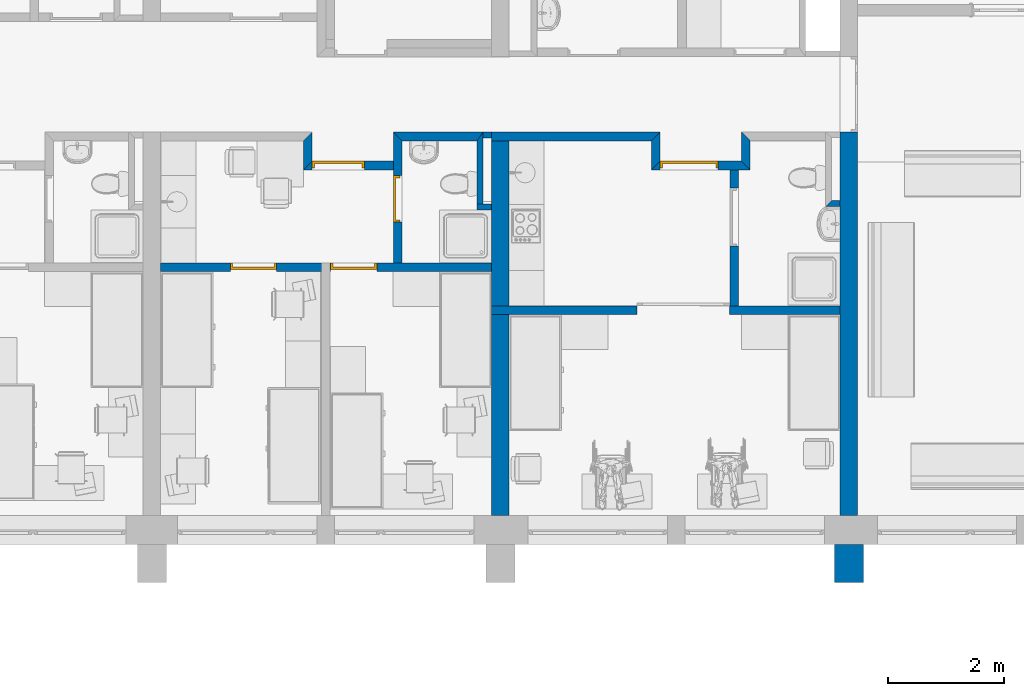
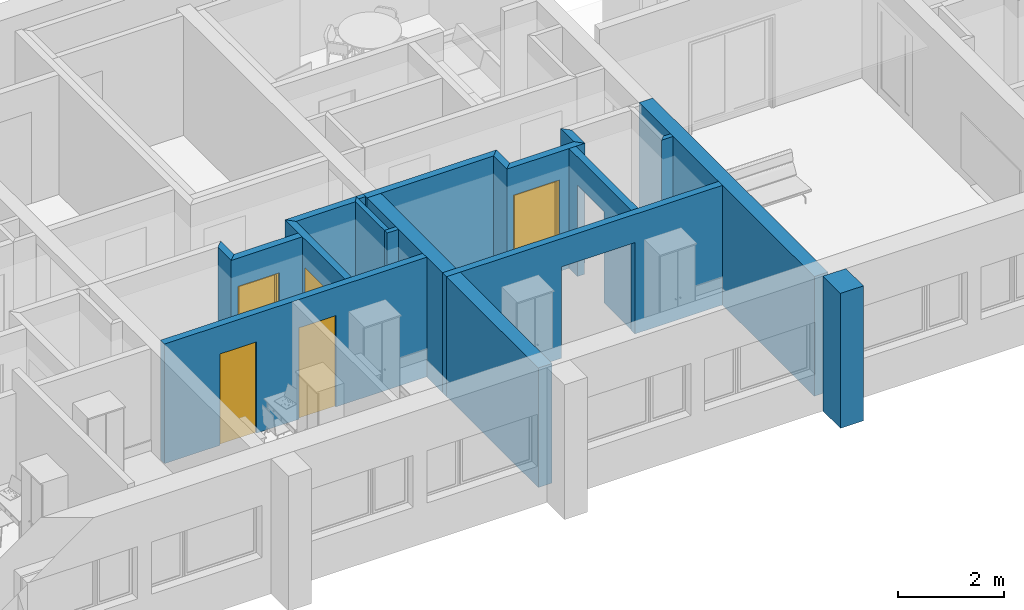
# One storey, part 11 of 172: 18 walls, 5 doors, 7 openings.
"""IFC2X3 building model written with IfcOpenShell, lengths in millimetres."""

from ifc_helpers import new_model, entity, si_unit, converted_unit, money_unit, direction, frame, origin_with_axes, place, context, subcontext, project, spatial, polyline, outline, extrude, faceted_brep, source, transform, mapped, material, material_list, layer, layer_set, layer_usage, type_object, element, fill, save


model = new_model("IFC2X3")

# Units and contexts
model_context = context("Model", 3, precision=1e-05, world=origin_with_axes(), true_north=direction((0.0, 1.0)))
body_context = subcontext(model_context, "Body", "Model", "MODEL_VIEW")
ifc_project = project(units=[si_unit("LENGTHUNIT", "METRE", prefix="MILLI"), si_unit("AREAUNIT", "SQUARE_METRE"), si_unit("VOLUMEUNIT", "CUBIC_METRE"), converted_unit("PLANEANGLEUNIT", "DEGREE", entity("IfcPlaneAngleMeasure", 0.0174532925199), si_unit("PLANEANGLEUNIT", "RADIAN"), dimensions=[0, 0, 0, 0, 0, 0, 0]), si_unit("SOLIDANGLEUNIT", "STERADIAN"), money_unit("USD"), converted_unit("TIMEUNIT", "Year", entity("IfcTimeMeasure", 31556926.0), si_unit("TIMEUNIT", "SECOND"), dimensions=[0, 0, 0, 0, 0, 0, 0]), si_unit("MASSUNIT", "GRAM"), si_unit("THERMODYNAMICTEMPERATUREUNIT", "DEGREE_CELSIUS"), si_unit("LUMINOUSINTENSITYUNIT", "LUMEN")], contexts=[model_context])

# Site, building, storey
site_placement = place(None, origin_with_axes())
site = spatial("IfcSite", under=ifc_project, at=site_placement, Name="Site", CompositionType="ELEMENT")
building_placement = place(site_placement, origin_with_axes())
building = spatial("IfcBuilding", under=site, at=building_placement, Name="Building", CompositionType="ELEMENT")
storey_placement = place(building_placement, frame((0.0, 0.0, 3200.0), z_axis=(0.0, 0.0, 1.0), x_axis=(1.0, 0.0, 0.0)))
storey = spatial("IfcBuildingStorey", under=building, at=storey_placement, Name="3KORRUS", CompositionType="ELEMENT", Elevation=3200.0)

# Walls
ifc_material_1 = material(Name="Olemasolevad seinad tellis, uus viimistlus")
ifc_layer_1 = layer(ifc_material_1, 500.0, ventilated="UNKNOWN")
ifc_layer_set_1 = layer_set([ifc_layer_1], Name="Olemasolevad seinad tellis, uus viimistlus 500")
ifc_layer_usage_1 = layer_usage(ifc_layer_set_1, "AXIS2", "POSITIVE", -100.0)
wall_type_1 = type_object("IfcWallType", Name="Olemasolevad seinad tellis, uus viimistlus 500", PredefinedType="NOTDEFINED")
wall_1_placement = place(storey_placement, frame((-11990.2967033, -20796.6419407, 0.0), z_axis=(0.0, 0.0, 1.0), x_axis=(0.0, 1.0, 0.0)))
element("IfcWallStandardCase", 1, at=wall_1_placement, inside=storey, type_object=wall_type_1, material=ifc_layer_usage_1, Name="VS1", ObjectType="VS1", context=body_context, shape_type="SweptSolid", body=[
    extrude(outline(polyline([(0.0, -100.0), (657.402041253, -100.0), (657.402041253, 400.0), (0.0, 400.0), (0.0, -100.0)])), origin_with_axes(), (0.0, 0.0, 1.0), 3100.0),
])
ifc_material_2 = material(Name="UmbKipsplaat")
ifc_layer_2 = layer(ifc_material_2, 13.0, ventilated="UNKNOWN")
ifc_layer_3 = layer(ifc_material_2, 13.0, ventilated="UNKNOWN")
ifc_material_3 = material(Name="SOOJUSTUS MINERAALVILL")
ifc_layer_4 = layer(ifc_material_3, 98.0, ventilated="UNKNOWN")
ifc_layer_5 = layer(ifc_material_2, 13.0, ventilated="UNKNOWN")
ifc_layer_6 = layer(ifc_material_2, 13.0, ventilated="UNKNOWN")
ifc_layer_set_2 = layer_set([ifc_layer_2, ifc_layer_3, ifc_layer_4, ifc_layer_5, ifc_layer_6], Name="kipssein150")
ifc_layer_usage_2 = layer_usage(ifc_layer_set_2, "AXIS2", "POSITIVE", 0.0)
wall_type_2 = type_object("IfcWallType", Name="kipssein150 150", PredefinedType="NOTDEFINED")
wall_2_placement = place(storey_placement, frame((-21533.8623684, -13039.2398994, 0.0), z_axis=(0.0, 0.0, 1.0), x_axis=(0.0, -1.0, 0.0)))
element("IfcWallStandardCase", 2, at=wall_2_placement, inside=storey, type_object=wall_type_2, material=ifc_layer_usage_2, Name="SS1", ObjectType="SS1", context=body_context, shape_type="SweptSolid", body=[
    extrude(outline(polyline([(150.0, 0.0), (650.2125089, 0.0), (500.2125089, 150.0), (0.0, 150.0), (150.0, 0.0)])), origin_with_axes(), (0.0, 0.0, 1.0), 2750.0),
])

# Wall, opening, door
ifc_layer_usage_3 = layer_usage(ifc_layer_set_2, "AXIS2", "POSITIVE", 0.0)
wall_3_placement = place(storey_placement, frame((-19984.201689, -13539.4524083, 0.0), z_axis=(0.0, 0.0, 1.0), x_axis=(-1.0, 0.0, 0.0)))
wall_3 = element("IfcWallStandardCase", 3, at=wall_3_placement, inside=storey, type_object=wall_type_2, material=ifc_layer_usage_3, Name="SS1", ObjectType="SS1", context=body_context, shape_type="SweptSolid", body=[
    extrude(outline(polyline([(0.0, 0.0), (1399.6606794, 0.0), (1549.6606794, 150.0), (0.0, 150.0), (0.0, 0.0)])), origin_with_axes(), (0.0, 0.0, 1.0), 2750.0),
])
opening_1_placement = place(wall_3_placement, frame((949.660679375, 0.0, 0.0), z_axis=(0.0, 0.0, 1.0), x_axis=(1.0, 0.0, 0.0)))
opening_1 = element("IfcOpeningElement", 4, at=opening_1_placement, cuts=wall_3, Name="SU2-6", context=body_context, shape_type="SweptSolid", body=[
    extrude(outline(polyline([(-450.0, -2100.0), (450.0, -2100.0), (450.0, 0.0), (-450.0, 0.0), (-450.0, -2100.0)])), frame((0.0, 150.0, 0.0), z_axis=(0.0, 1.0, 0.0), x_axis=(1.0, 0.0, 0.0)), (0.0, 0.0, -1.0), 450.0),
])
ifc_material_4 = material(Name="Background")
ifc_material_list = material_list([ifc_material_4])
door_style_1 = type_object("IfcDoorStyle", Name="Door 19", ConstructionType="NOTDEFINED", OperationType="SINGLE_SWING_LEFT", ParameterTakesPrecedence=False, Sizeable=False)
shared_shape_1 = source(origin_with_axes(), body_context, "Body", "Brep", [
    faceted_brep([(410.0, -40.0, 0.0), (410.0, -115.0, 0.0), (410.0, -115.0, 2060.0), (410.0, -40.0, 2060.0), (422.0, -40.0, 0.0), (422.0, 0.0, 0.0), (450.0, 0.0, 0.0), (450.0, -115.0, 0.0), (450.0, -115.0, 2060.0), (422.0, -40.0, 2060.0), (450.0, 0.0, 2060.0), (422.0, 0.0, 2060.0)], [[[0, 1, 2, 3]], [[4, 5, 6, 7, 1, 0]], [[2, 1, 7, 8]], [[9, 3, 2, 8, 10, 11]], [[9, 4, 0, 3]], [[11, 5, 4, 9]], [[11, 10, 6, 5]], [[7, 6, 10, 8]]]),
    faceted_brep([(-422.0, -40.0, 2060.0), (-422.0, 0.0, 2060.0), (-450.0, 0.0, 2060.0), (-450.0, -115.0, 2060.0), (-410.0, -115.0, 2060.0), (-410.0, -40.0, 2060.0), (-422.0, -40.0, 0.0), (-422.0, 0.0, 0.0), (-450.0, 0.0, 0.0), (-450.0, -115.0, 0.0), (-410.0, -115.0, 0.0), (-410.0, -40.0, 0.0)], [[[0, 1, 2, 3, 4, 5]], [[0, 6, 7, 1]], [[7, 8, 2, 1]], [[3, 2, 8, 9]], [[4, 3, 9, 10]], [[5, 4, 10, 11]], [[5, 11, 6, 0]], [[6, 11, 10, 9, 8, 7]]]),
    faceted_brep([(422.0, 0.0, 2072.0), (-422.0, 0.0, 2072.0), (-422.0, 0.0, 2060.0), (-450.0, 0.0, 2060.0), (-450.0, 0.0, 2100.0), (450.0, 0.0, 2100.0), (450.0, 0.0, 2060.0), (422.0, 0.0, 2060.0), (422.0, -40.0, 2072.0), (-422.0, -40.0, 2072.0), (-422.0, -40.0, 2060.0), (-410.0, -40.0, 2060.0), (-410.0, -115.0, 2060.0), (-450.0, -115.0, 2060.0), (-450.0, -115.0, 2100.0), (450.0, -115.0, 2100.0), (450.0, -115.0, 2060.0), (422.0, -40.0, 2060.0), (410.0, -115.0, 2060.0), (410.0, -40.0, 2060.0)], [[[0, 1, 2, 3, 4, 5, 6, 7]], [[0, 8, 9, 1]], [[1, 9, 10, 2]], [[10, 11, 12, 13, 3, 2]], [[14, 4, 3, 13]], [[15, 5, 4, 14]], [[16, 6, 5, 15]], [[17, 7, 6, 16, 18, 19]], [[7, 17, 8, 0]], [[10, 9, 8, 17, 19, 11]], [[19, 18, 12, 11]], [[13, 12, 18, 16, 15, 14]]]),
    faceted_brep([(-422.0, 0.0, 0.0), (422.0, 0.0, 0.0), (422.0, -40.0, 0.0), (-422.0, -40.0, 0.0), (-422.0, 0.0, 2072.0), (422.0, 0.0, 2072.0), (422.0, -40.0, 2072.0), (-422.0, -40.0, 2072.0)], [[[0, 1, 2, 3]], [[0, 4, 5, 1]], [[1, 5, 6, 2]], [[3, 2, 6, 7]], [[4, 0, 3, 7]], [[5, 4, 7, 6]]]),
])
door_1_placement = place(opening_1_placement, frame((450.0, 0.0, 0.0), z_axis=(0.0, 0.0, 1.0), x_axis=(-1.0, 0.0, 0.0)))
door_1 = element("IfcDoor", 5, at=door_1_placement, inside=storey, type_object=door_style_1, material=ifc_material_list, Name="SU2-6", ObjectType="Korteri välisuks", OverallHeight=2100.0, OverallWidth=900.0, context=body_context, shape_type="MappedRepresentation", body=[
    mapped(shared_shape_1, transform((450.0, 0.0, 0.0))),
])
fill(opening_1, door_1)

# Wall
ifc_layer_usage_4 = layer_usage(ifc_layer_set_2, "AXIS2", "POSITIVE", -150.0)
wall_4_placement = place(storey_placement, frame((-19984.201689, -13039.3705726, 0.0), z_axis=(0.0, 0.0, 1.0), x_axis=(1.0, 0.0, 0.0)))
element("IfcWallStandardCase", 6, at=wall_4_placement, inside=storey, type_object=wall_type_2, material=ifc_layer_usage_4, Name="SS1", ObjectType="SS1", context=body_context, shape_type="SweptSolid", body=[
    extrude(outline(polyline([(150.0, -150.0), (1444.193381, -150.0), (1544.193381, 0.0), (0.0, 0.0), (150.0, -150.0)])), origin_with_axes(), (0.0, 0.0, 1.0), 2750.0),
])

# Wall, opening, door
ifc_layer_usage_5 = layer_usage(ifc_layer_set_2, "AXIS2", "POSITIVE", -150.0)
wall_5_placement = place(storey_placement, frame((-19984.201689, -15289.2398994, 0.0), z_axis=(0.0, 0.0, 1.0), x_axis=(0.0, 1.0, 0.0)))
wall_5 = element("IfcWallStandardCase", 7, at=wall_5_placement, inside=storey, type_object=wall_type_2, material=ifc_layer_usage_5, Name="SS1", ObjectType="SS1", context=body_context, shape_type="SweptSolid", body=[
    extrude(outline(polyline([(0.0, -150.0), (2099.8693268, -150.0), (2249.8693268, 0.0), (0.0, 0.0), (0.0, -150.0)])), origin_with_axes(), (0.0, 0.0, 1.0), 2750.0),
])
opening_2_placement = place(wall_5_placement, frame((1099.78749111, 0.0, 0.0), z_axis=(0.0, 0.0, 1.0), x_axis=(1.0, 0.0, 0.0)))
opening_2 = element("IfcOpeningElement", 8, at=opening_2_placement, cuts=wall_5, Name="SU3-2", context=body_context, shape_type="SweptSolid", body=[
    extrude(outline(polyline([(-400.0, -2100.0), (400.0, -2100.0), (400.0, 0.0), (-400.0, 0.0), (-400.0, -2100.0)])), frame((0.0, -150.0, 0.0), z_axis=(0.0, 1.0, 0.0), x_axis=(1.0, 0.0, 0.0)), (0.0, 0.0, 1.0), 450.0),
])
door_style_2 = type_object("IfcDoorStyle", Name="Door 19", ConstructionType="NOTDEFINED", OperationType="SINGLE_SWING_RIGHT", ParameterTakesPrecedence=False, Sizeable=False)
shared_shape_2 = source(origin_with_axes(), body_context, "Body", "Brep", [
    faceted_brep([(-360.0, -40.0, 0.0), (-360.0, -40.0, 2060.0), (-360.0, -115.0, 2060.0), (-360.0, -115.0, 0.0), (-372.0, -40.0, 2060.0), (-372.0, -40.0, 0.0), (-372.0, 0.0, 2060.0), (-400.0, 0.0, 2060.0), (-400.0, -115.0, 2060.0), (-400.0, -115.0, 0.0), (-400.0, 0.0, 0.0), (-372.0, 0.0, 0.0)], [[[0, 1, 2, 3]], [[4, 1, 0, 5]], [[4, 6, 7, 8, 2, 1]], [[2, 8, 9, 3]], [[5, 0, 3, 9, 10, 11]], [[6, 4, 5, 11]], [[6, 11, 10, 7]], [[9, 8, 7, 10]]]),
    faceted_brep([(372.0, -40.0, 2060.0), (360.0, -40.0, 2060.0), (360.0, -115.0, 2060.0), (400.0, -115.0, 2060.0), (400.0, 0.0, 2060.0), (372.0, 0.0, 2060.0), (372.0, -40.0, 0.0), (360.0, -40.0, 0.0), (360.0, -115.0, 0.0), (400.0, -115.0, 0.0), (400.0, 0.0, 0.0), (372.0, 0.0, 0.0)], [[[0, 1, 2, 3, 4, 5]], [[1, 0, 6, 7]], [[1, 7, 8, 2]], [[2, 8, 9, 3]], [[3, 9, 10, 4]], [[11, 5, 4, 10]], [[0, 5, 11, 6]], [[6, 11, 10, 9, 8, 7]]]),
    faceted_brep([(-372.0, 0.0, 2072.0), (-372.0, 0.0, 2060.0), (-400.0, 0.0, 2060.0), (-400.0, 0.0, 2100.0), (400.0, 0.0, 2100.0), (400.0, 0.0, 2060.0), (372.0, 0.0, 2060.0), (372.0, 0.0, 2072.0), (-372.0, -40.0, 2072.0), (-372.0, -40.0, 2060.0), (-360.0, -40.0, 2060.0), (-360.0, -115.0, 2060.0), (-400.0, -115.0, 2060.0), (-400.0, -115.0, 2100.0), (400.0, -115.0, 2100.0), (400.0, -115.0, 2060.0), (372.0, -40.0, 2060.0), (360.0, -115.0, 2060.0), (360.0, -40.0, 2060.0), (372.0, -40.0, 2072.0)], [[[0, 1, 2, 3, 4, 5, 6, 7]], [[1, 0, 8, 9]], [[9, 10, 11, 12, 2, 1]], [[12, 13, 3, 2]], [[13, 14, 4, 3]], [[14, 15, 5, 4]], [[16, 6, 5, 15, 17, 18]], [[7, 6, 16, 19]], [[0, 7, 19, 8]], [[16, 18, 10, 9, 8, 19]], [[10, 18, 17, 11]], [[15, 14, 13, 12, 11, 17]]]),
    faceted_brep([(372.0, 0.0, 0.0), (372.0, -40.0, 0.0), (-372.0, -40.0, 0.0), (-372.0, 0.0, 0.0), (372.0, 0.0, 2072.0), (372.0, -40.0, 2072.0), (-372.0, -40.0, 2072.0), (-372.0, 0.0, 2072.0)], [[[0, 1, 2, 3]], [[4, 5, 1, 0]], [[1, 5, 6, 2]], [[3, 2, 6, 7]], [[0, 3, 7, 4]], [[7, 6, 5, 4]]]),
])
door_2_placement = place(opening_2_placement, frame((-400.0, 0.0, 0.0), z_axis=(0.0, 0.0, 1.0), x_axis=(1.0, 0.0, 0.0)))
door_2 = element("IfcDoor", 9, at=door_2_placement, inside=storey, type_object=door_style_2, material=ifc_material_list, Name="SU3-2", ObjectType="WC-uks", OverallHeight=2100.0, OverallWidth=800.0, context=body_context, shape_type="MappedRepresentation", body=[
    mapped(shared_shape_2, transform((400.0, 0.0, 0.0))),
])
fill(opening_2, door_2)

# Wall, openings, doors
ifc_layer_usage_6 = layer_usage(ifc_layer_set_2, "AXIS2", "POSITIVE", -150.0)
wall_6_placement = place(storey_placement, frame((-17990.2967033, -15439.2398994, 0.0), z_axis=(0.0, 0.0, 1.0), x_axis=(-1.0, 0.0, 0.0)))
wall_6 = element("IfcWallStandardCase", 10, at=wall_6_placement, inside=storey, type_object=wall_type_2, material=ifc_layer_usage_6, Name="SS1", ObjectType="SS1", context=body_context, shape_type="SweptSolid", body=[
    extrude(outline(polyline([(300.0, -150.0), (6000.0, -150.0), (6000.0, 0.0), (300.0, 0.0), (300.0, -150.0)])), origin_with_axes(), (0.0, 0.0, 1.0), 2750.0),
])
opening_3_placement = place(wall_6_placement, frame((4400.0, 0.0, 0.0), z_axis=(0.0, 0.0, 1.0), x_axis=(1.0, 0.0, 0.0)))
opening_3 = element("IfcOpeningElement", 11, at=opening_3_placement, cuts=wall_6, Name="SU3-5", context=body_context, shape_type="SweptSolid", body=[
    extrude(outline(polyline([(-400.0, 0.0), (400.0, 0.0), (400.0, 2100.0), (-400.0, 2100.0), (-400.0, 0.0)])), frame((0.0, 150.0, 0.0), z_axis=(0.0, 1.0, 0.0), x_axis=(-1.0, 0.0, 0.0)), (0.0, 0.0, -1.0), 450.0),
])
opening_4_placement = place(wall_6_placement, frame((2675.0, 0.0, 0.0), z_axis=(0.0, 0.0, 1.0), x_axis=(1.0, 0.0, 0.0)))
opening_4 = element("IfcOpeningElement", 12, at=opening_4_placement, cuts=wall_6, Name="SU3-4", context=body_context, shape_type="SweptSolid", body=[
    extrude(outline(polyline([(-400.0, 0.0), (400.0, 0.0), (400.0, 2100.0), (-400.0, 2100.0), (-400.0, 0.0)])), frame((0.0, 150.0, 0.0), z_axis=(0.0, -1.0, 0.0), x_axis=(1.0, 0.0, 0.0)), (0.0, 0.0, 1.0), 450.0),
])
door_style_3 = type_object("IfcDoorStyle", Name="Door 19", ConstructionType="NOTDEFINED", OperationType="SINGLE_SWING_LEFT", ParameterTakesPrecedence=False, Sizeable=False)
shared_shape_3 = source(origin_with_axes(), body_context, "Body", "Brep", [
    faceted_brep([(360.0, -75.0, 0.0), (360.0, -150.0, 0.0), (360.0, -150.0, 2060.0), (360.0, -75.0, 2060.0), (372.0, -75.0, 0.0), (372.0, -35.0, 0.0), (400.0, -35.0, 0.0), (400.0, -150.0, 0.0), (400.0, -150.0, 2060.0), (372.0, -75.0, 2060.0), (400.0, -35.0, 2060.0), (372.0, -35.0, 2060.0)], [[[0, 1, 2, 3]], [[4, 5, 6, 7, 1, 0]], [[2, 1, 7, 8]], [[9, 3, 2, 8, 10, 11]], [[9, 4, 0, 3]], [[11, 5, 4, 9]], [[11, 10, 6, 5]], [[7, 6, 10, 8]]]),
    faceted_brep([(-372.0, -75.0, 2060.0), (-372.0, -35.0, 2060.0), (-400.0, -35.0, 2060.0), (-400.0, -150.0, 2060.0), (-360.0, -150.0, 2060.0), (-360.0, -75.0, 2060.0), (-372.0, -75.0, 0.0), (-372.0, -35.0, 0.0), (-400.0, -35.0, 0.0), (-400.0, -150.0, 0.0), (-360.0, -150.0, 0.0), (-360.0, -75.0, 0.0)], [[[0, 1, 2, 3, 4, 5]], [[0, 6, 7, 1]], [[7, 8, 2, 1]], [[3, 2, 8, 9]], [[4, 3, 9, 10]], [[5, 4, 10, 11]], [[5, 11, 6, 0]], [[6, 11, 10, 9, 8, 7]]]),
    faceted_brep([(372.0, -35.0, 2072.0), (-372.0, -35.0, 2072.0), (-372.0, -35.0, 2060.0), (-400.0, -35.0, 2060.0), (-400.0, -35.0, 2100.0), (400.0, -35.0, 2100.0), (400.0, -35.0, 2060.0), (372.0, -35.0, 2060.0), (372.0, -75.0, 2072.0), (-372.0, -75.0, 2072.0), (-372.0, -75.0, 2060.0), (-360.0, -75.0, 2060.0), (-360.0, -150.0, 2060.0), (-400.0, -150.0, 2060.0), (-400.0, -150.0, 2100.0), (400.0, -150.0, 2100.0), (400.0, -150.0, 2060.0), (372.0, -75.0, 2060.0), (360.0, -150.0, 2060.0), (360.0, -75.0, 2060.0)], [[[0, 1, 2, 3, 4, 5, 6, 7]], [[0, 8, 9, 1]], [[1, 9, 10, 2]], [[10, 11, 12, 13, 3, 2]], [[14, 4, 3, 13]], [[15, 5, 4, 14]], [[16, 6, 5, 15]], [[17, 7, 6, 16, 18, 19]], [[7, 17, 8, 0]], [[10, 9, 8, 17, 19, 11]], [[19, 18, 12, 11]], [[13, 12, 18, 16, 15, 14]]]),
    faceted_brep([(-372.0, -35.0, 0.0), (372.0, -35.0, 0.0), (372.0, -75.0, 0.0), (-372.0, -75.0, 0.0), (-372.0, -35.0, 2072.0), (372.0, -35.0, 2072.0), (372.0, -75.0, 2072.0), (-372.0, -75.0, 2072.0)], [[[0, 1, 2, 3]], [[0, 4, 5, 1]], [[1, 5, 6, 2]], [[3, 2, 6, 7]], [[4, 0, 3, 7]], [[5, 4, 7, 6]]]),
])
door_3_placement = place(opening_3_placement, frame((-400.0, 0.0, 0.0), z_axis=(0.0, 0.0, 1.0), x_axis=(1.0, 0.0, 0.0)))
door_3 = element("IfcDoor", 13, at=door_3_placement, inside=storey, type_object=door_style_3, material=ifc_material_list, Name="SU3-5", ObjectType="Toa uks", OverallHeight=2100.0, OverallWidth=800.0, context=body_context, shape_type="MappedRepresentation", body=[
    mapped(shared_shape_3, transform((400.0, 0.0, 0.0))),
])
fill(opening_3, door_3)
door_style_4 = type_object("IfcDoorStyle", Name="Door 19", ConstructionType="NOTDEFINED", OperationType="SINGLE_SWING_RIGHT", ParameterTakesPrecedence=False, Sizeable=False)
shared_shape_4 = source(origin_with_axes(), body_context, "Body", "Brep", [
    faceted_brep([(-360.0, -75.0, 0.0), (-360.0, -75.0, 2060.0), (-360.0, -150.0, 2060.0), (-360.0, -150.0, 0.0), (-372.0, -75.0, 2060.0), (-372.0, -75.0, 0.0), (-372.0, -35.0, 2060.0), (-400.0, -35.0, 2060.0), (-400.0, -150.0, 2060.0), (-400.0, -150.0, 0.0), (-400.0, -35.0, 0.0), (-372.0, -35.0, 0.0)], [[[0, 1, 2, 3]], [[4, 1, 0, 5]], [[4, 6, 7, 8, 2, 1]], [[2, 8, 9, 3]], [[5, 0, 3, 9, 10, 11]], [[6, 4, 5, 11]], [[6, 11, 10, 7]], [[9, 8, 7, 10]]]),
    faceted_brep([(372.0, -75.0, 2060.0), (360.0, -75.0, 2060.0), (360.0, -150.0, 2060.0), (400.0, -150.0, 2060.0), (400.0, -35.0, 2060.0), (372.0, -35.0, 2060.0), (372.0, -75.0, 0.0), (360.0, -75.0, 0.0), (360.0, -150.0, 0.0), (400.0, -150.0, 0.0), (400.0, -35.0, 0.0), (372.0, -35.0, 0.0)], [[[0, 1, 2, 3, 4, 5]], [[1, 0, 6, 7]], [[1, 7, 8, 2]], [[2, 8, 9, 3]], [[3, 9, 10, 4]], [[11, 5, 4, 10]], [[0, 5, 11, 6]], [[6, 11, 10, 9, 8, 7]]]),
    faceted_brep([(-372.0, -35.0, 2072.0), (-372.0, -35.0, 2060.0), (-400.0, -35.0, 2060.0), (-400.0, -35.0, 2100.0), (400.0, -35.0, 2100.0), (400.0, -35.0, 2060.0), (372.0, -35.0, 2060.0), (372.0, -35.0, 2072.0), (-372.0, -75.0, 2072.0), (-372.0, -75.0, 2060.0), (-360.0, -75.0, 2060.0), (-360.0, -150.0, 2060.0), (-400.0, -150.0, 2060.0), (-400.0, -150.0, 2100.0), (400.0, -150.0, 2100.0), (400.0, -150.0, 2060.0), (372.0, -75.0, 2060.0), (360.0, -150.0, 2060.0), (360.0, -75.0, 2060.0), (372.0, -75.0, 2072.0)], [[[0, 1, 2, 3, 4, 5, 6, 7]], [[1, 0, 8, 9]], [[9, 10, 11, 12, 2, 1]], [[12, 13, 3, 2]], [[13, 14, 4, 3]], [[14, 15, 5, 4]], [[16, 6, 5, 15, 17, 18]], [[7, 6, 16, 19]], [[0, 7, 19, 8]], [[16, 18, 10, 9, 8, 19]], [[10, 18, 17, 11]], [[15, 14, 13, 12, 11, 17]]]),
    faceted_brep([(372.0, -35.0, 0.0), (372.0, -75.0, 0.0), (-372.0, -75.0, 0.0), (-372.0, -35.0, 0.0), (372.0, -35.0, 2072.0), (372.0, -75.0, 2072.0), (-372.0, -75.0, 2072.0), (-372.0, -35.0, 2072.0)], [[[0, 1, 2, 3]], [[4, 5, 1, 0]], [[1, 5, 6, 2]], [[3, 2, 6, 7]], [[0, 3, 7, 4]], [[7, 6, 5, 4]]]),
])
door_4_placement = place(opening_4_placement, frame((-400.0, 0.0, 0.0), z_axis=(0.0, 0.0, 1.0), x_axis=(1.0, 0.0, 0.0)))
door_4 = element("IfcDoor", 14, at=door_4_placement, inside=storey, type_object=door_style_4, material=ifc_material_list, Name="SU3-4", ObjectType="Toa uks", OverallHeight=2100.0, OverallWidth=800.0, context=body_context, shape_type="MappedRepresentation", body=[
    mapped(shared_shape_4, transform((400.0, 0.0, 0.0))),
])
fill(opening_4, door_4)

# Wall, opening, door
ifc_layer_usage_7 = layer_usage(ifc_layer_set_2, "AXIS2", "POSITIVE", 0.0)
wall_7_placement = place(storey_placement, frame((-13990.4900844, -13539.4524083, 0.0), z_axis=(0.0, 0.0, 1.0), x_axis=(-1.0, 0.0, 0.0)))
wall_7 = element("IfcWallStandardCase", 15, at=wall_7_placement, inside=storey, type_object=wall_type_2, material=ifc_layer_usage_7, Name="SS1", ObjectType="SS1", context=body_context, shape_type="SweptSolid", body=[
    extrude(outline(polyline([(0.0, 0.0), (1399.6606793, 0.0), (1549.6606793, 150.0), (-150.0, 150.0), (0.0, 0.0)])), origin_with_axes(), (0.0, 0.0, 1.0), 2750.0),
])
opening_5_placement = place(wall_7_placement, frame((899.660679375, 0.0, 0.0), z_axis=(0.0, 0.0, 1.0), x_axis=(1.0, 0.0, 0.0)))
opening_5 = element("IfcOpeningElement", 16, at=opening_5_placement, cuts=wall_7, Name="SU1-3", context=body_context, shape_type="SweptSolid", body=[
    extrude(outline(polyline([(-500.0, -2100.0), (500.0, -2100.0), (500.0, 0.0), (-500.0, 0.0), (-500.0, -2100.0)])), frame((0.0, 150.0, 0.0), z_axis=(0.0, 1.0, 0.0), x_axis=(1.0, 0.0, 0.0)), (0.0, 0.0, -1.0), 450.0),
])
shared_shape_5 = source(origin_with_axes(), body_context, "Body", "Brep", [
    faceted_brep([(460.0, -40.0, 0.0), (460.0, -115.0, 0.0), (460.0, -115.0, 2060.0), (460.0, -40.0, 2060.0), (472.0, -40.0, 0.0), (472.0, 0.0, 0.0), (500.0, 0.0, 0.0), (500.0, -115.0, 0.0), (500.0, -115.0, 2060.0), (472.0, -40.0, 2060.0), (500.0, 0.0, 2060.0), (472.0, 0.0, 2060.0)], [[[0, 1, 2, 3]], [[4, 5, 6, 7, 1, 0]], [[2, 1, 7, 8]], [[9, 3, 2, 8, 10, 11]], [[9, 4, 0, 3]], [[11, 5, 4, 9]], [[11, 10, 6, 5]], [[7, 6, 10, 8]]]),
    faceted_brep([(-472.0, -40.0, 2060.0), (-472.0, 0.0, 2060.0), (-500.0, 0.0, 2060.0), (-500.0, -115.0, 2060.0), (-460.0, -115.0, 2060.0), (-460.0, -40.0, 2060.0), (-472.0, -40.0, 0.0), (-472.0, 0.0, 0.0), (-500.0, 0.0, 0.0), (-500.0, -115.0, 0.0), (-460.0, -115.0, 0.0), (-460.0, -40.0, 0.0)], [[[0, 1, 2, 3, 4, 5]], [[0, 6, 7, 1]], [[7, 8, 2, 1]], [[3, 2, 8, 9]], [[4, 3, 9, 10]], [[5, 4, 10, 11]], [[5, 11, 6, 0]], [[6, 11, 10, 9, 8, 7]]]),
    faceted_brep([(472.0, 0.0, 2072.0), (-472.0, 0.0, 2072.0), (-472.0, 0.0, 2060.0), (-500.0, 0.0, 2060.0), (-500.0, 0.0, 2100.0), (500.0, 0.0, 2100.0), (500.0, 0.0, 2060.0), (472.0, 0.0, 2060.0), (472.0, -40.0, 2072.0), (-472.0, -40.0, 2072.0), (-472.0, -40.0, 2060.0), (-460.0, -40.0, 2060.0), (-460.0, -115.0, 2060.0), (-500.0, -115.0, 2060.0), (-500.0, -115.0, 2100.0), (500.0, -115.0, 2100.0), (500.0, -115.0, 2060.0), (472.0, -40.0, 2060.0), (460.0, -115.0, 2060.0), (460.0, -40.0, 2060.0)], [[[0, 1, 2, 3, 4, 5, 6, 7]], [[0, 8, 9, 1]], [[1, 9, 10, 2]], [[10, 11, 12, 13, 3, 2]], [[14, 4, 3, 13]], [[15, 5, 4, 14]], [[16, 6, 5, 15]], [[17, 7, 6, 16, 18, 19]], [[7, 17, 8, 0]], [[10, 9, 8, 17, 19, 11]], [[19, 18, 12, 11]], [[13, 12, 18, 16, 15, 14]]]),
    faceted_brep([(-472.0, 0.0, 0.0), (472.0, 0.0, 0.0), (472.0, -40.0, 0.0), (-472.0, -40.0, 0.0), (-472.0, 0.0, 2072.0), (472.0, 0.0, 2072.0), (472.0, -40.0, 2072.0), (-472.0, -40.0, 2072.0)], [[[0, 1, 2, 3]], [[0, 4, 5, 1]], [[1, 5, 6, 2]], [[3, 2, 6, 7]], [[4, 0, 3, 7]], [[5, 4, 7, 6]]]),
])
door_5_placement = place(opening_5_placement, frame((500.0, 0.0, 0.0), z_axis=(0.0, 0.0, 1.0), x_axis=(-1.0, 0.0, 0.0)))
door_5 = element("IfcDoor", 17, at=door_5_placement, inside=storey, type_object=door_style_1, material=ifc_material_list, Name="SU1-3", ObjectType="Korteri välisuks", OverallHeight=2100.0, OverallWidth=1000.0, context=body_context, shape_type="MappedRepresentation", body=[
    mapped(shared_shape_5, transform((500.0, 0.0, 0.0))),
])
fill(opening_5, door_5)

# Walls
ifc_layer_usage_8 = layer_usage(ifc_layer_set_2, "AXIS2", "POSITIVE", 0.0)
wall_8_placement = place(storey_placement, frame((-15540.1507637, -13039.2398994, 0.0), z_axis=(0.0, 0.0, 1.0), x_axis=(0.0, -1.0, 0.0)))
element("IfcWallStandardCase", 18, at=wall_8_placement, inside=storey, type_object=wall_type_2, material=ifc_layer_usage_8, Name="SS1", ObjectType="SS1", context=body_context, shape_type="SweptSolid", body=[
    extrude(outline(polyline([(150.0, 0.0), (650.2125089, 0.0), (500.2125089, 150.0), (0.0, 150.0), (150.0, 0.0)])), origin_with_axes(), (0.0, 0.0, 1.0), 2750.0),
])
ifc_layer_usage_9 = layer_usage(ifc_layer_set_2, "AXIS2", "POSITIVE", 0.0)
wall_9_placement = place(storey_placement, frame((-15540.1507637, -13039.2398994, 0.0), z_axis=(0.0, 0.0, 1.0), x_axis=(-1.0, 0.0, 0.0)))
element("IfcWallStandardCase", 19, at=wall_9_placement, inside=storey, type_object=wall_type_2, material=ifc_layer_usage_9, Name="SS1", ObjectType="SS1", context=body_context, shape_type="SweptSolid", body=[
    extrude(outline(polyline([(-150.0, 0.0), (2750.14593957, 0.0), (2750.14593957, 150.0), (0.0, 150.0), (-150.0, 0.0)])), origin_with_axes(), (0.0, 0.0, 1.0), 2750.0),
])

# Wall, opening
ifc_layer_usage_10 = layer_usage(ifc_layer_set_2, "AXIS2", "POSITIVE", -150.0)
wall_10_placement = place(storey_placement, frame((-14187.2404586, -16029.739502, 0.0), z_axis=(0.0, 0.0, 1.0), x_axis=(0.0, 1.0, 0.0)))
wall_10 = element("IfcWallStandardCase", 20, at=wall_10_placement, inside=storey, type_object=wall_type_2, material=ifc_layer_usage_10, Name="SS1", ObjectType="SS1", context=body_context, shape_type="SweptSolid", body=[
    extrude(outline(polyline([(0.0037099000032, -150.0), (2340.2870937, -150.0), (2340.2870937, 0.0), (0.0037099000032, 0.0), (0.0037099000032, -150.0)])), origin_with_axes(), (0.0, 0.0, 1.0), 2750.0),
])
opening_6_placement = place(wall_10_placement, frame((1525.08151152, 0.0, 0.0), z_axis=(0.0, 0.0, 1.0), x_axis=(1.0, 0.0, 0.0)))
element("IfcOpeningElement", 21, at=opening_6_placement, cuts=wall_10, Name="SU1-2", context=body_context, shape_type="SweptSolid", body=[
    extrude(outline(polyline([(-500.0, -2100.0), (500.0, -2100.0), (500.0, 0.0), (-500.0, 0.0), (-500.0, -2100.0)])), frame((0.0, -150.0, 0.0), z_axis=(0.0, 1.0, 0.0), x_axis=(1.0, 0.0, 0.0)), (0.0, 0.0, 1.0), 450.0),
])

ifc_layer_usage_11 = layer_usage(ifc_layer_set_2, "AXIS2", "POSITIVE", -150.0)
wall_11_placement = place(storey_placement, frame((-18290.2967033, -16029.7357921, 0.0), z_axis=(0.0, 0.0, 1.0), x_axis=(1.0, 0.0, 0.0)))
wall_11 = element("IfcWallStandardCase", 22, at=wall_11_placement, inside=storey, type_object=wall_type_2, material=ifc_layer_usage_11, Name="SS1", ObjectType="SS1", context=body_context, shape_type="SweptSolid", body=[
    extrude(outline(polyline([(0.0, -150.0), (6000.0, -150.0), (6000.0, 0.0), (0.0, 0.0), (0.0, -150.0)])), origin_with_axes(), (0.0, 0.0, 1.0), 2750.0),
])
opening_7_placement = place(wall_11_placement, frame((3298.49879352, 0.0, 0.0), z_axis=(0.0, 0.0, 1.0), x_axis=(1.0, 0.0, 0.0)))
element("IfcOpeningElement", 23, at=opening_7_placement, cuts=wall_11, Name="SU6-2", context=body_context, shape_type="SweptSolid", body=[
    extrude(outline(polyline([(-800.0, 0.0), (800.0, 0.0), (800.0, 2100.0), (-800.0, 2100.0), (-800.0, 0.0)])), frame((0.0, 150.0, 0.0), z_axis=(0.0, 1.0, 0.0), x_axis=(-1.0, 0.0, 0.0)), (0.0, 0.0, -1.0), 450.0),
])

# Walls
ifc_layer_usage_12 = layer_usage(ifc_layer_set_2, "AXIS2", "POSITIVE", 0.0)
wall_12_placement = place(storey_placement, frame((-13990.4900844, -13036.3705726, 0.0), z_axis=(0.0, 0.0, 1.0), x_axis=(0.0, -1.0, 0.0)))
element("IfcWallStandardCase", 24, at=wall_12_placement, inside=storey, type_object=wall_type_2, material=ifc_layer_usage_12, Name="SS1", ObjectType="SS1", context=body_context, shape_type="SweptSolid", body=[
    extrude(outline(polyline([(0.0, 0.0), (503.0818357, 0.0), (653.0818357, 150.0), (150.0, 150.0), (0.0, 0.0)])), origin_with_axes(), (0.0, 0.0, 1.0), 2750.0),
])
ifc_material_5 = material(Name="Olemasolevad seinad tellis, uus viimistlus")
ifc_layer_7 = layer(ifc_material_5, 300.0, ventilated="UNKNOWN")
ifc_layer_set_3 = layer_set([ifc_layer_7], Name="Olemasolevad seinad tellis, uus viimistlus  300")
ifc_layer_usage_13 = layer_usage(ifc_layer_set_3, "AXIS2", "POSITIVE", 0.0)
wall_type_3 = type_object("IfcWallType", Name="Olemasolevad seinad tellis, uus viimistlus  300", PredefinedType="NOTDEFINED")
wall_13_placement = place(storey_placement, frame((-17990.2967033, -19639.2398994, 0.0), z_axis=(0.0, 0.0, 1.0), x_axis=(0.0, 1.0, 0.0)))
element("IfcWallStandardCase", 25, at=wall_13_placement, inside=storey, type_object=wall_type_3, material=ifc_layer_usage_13, Name="KS1", ObjectType="KS1", context=body_context, shape_type="SweptSolid", body=[
    extrude(outline(polyline([(0.0, 0.0), (6450.0, 0.0), (6450.0, 300.0), (0.0, 300.0), (0.0, 0.0)])), origin_with_axes(), (0.0, 0.0, 1.0), 2750.0),
])
ifc_layer_usage_14 = layer_usage(ifc_layer_set_3, "AXIS2", "POSITIVE", 0.0)
wall_14_placement = place(storey_placement, frame((-11990.2967033, -19639.2398994, 0.0), z_axis=(0.0, 0.0, 1.0), x_axis=(0.0, 1.0, 0.0)))
element("IfcWallStandardCase", 26, at=wall_14_placement, inside=storey, type_object=wall_type_3, material=ifc_layer_usage_14, Name="KS1", ObjectType="KS1", context=body_context, shape_type="SweptSolid", body=[
    extrude(outline(polyline([(0.0, 0.0), (6600.0, 0.0), (6600.0, 300.0), (0.0, 300.0), (0.0, 0.0)])), origin_with_axes(), (0.0, 0.0, 1.0), 2750.0),
])
ifc_material_6 = material(Name="krohv")
ifc_layer_8 = layer(ifc_material_6, 2.0, ventilated="UNKNOWN")
ifc_layer_9 = layer(ifc_material_6, 10.0, ventilated="UNKNOWN")
ifc_material_7 = material(Name="Kergplokk")
ifc_layer_10 = layer(ifc_material_7, 76.0, ventilated="UNKNOWN")
ifc_layer_11 = layer(ifc_material_6, 10.0, ventilated="UNKNOWN")
ifc_layer_12 = layer(ifc_material_6, 2.0, ventilated="UNKNOWN")
ifc_layer_set_4 = layer_set([ifc_layer_8, ifc_layer_9, ifc_layer_10, ifc_layer_11, ifc_layer_12], Name="Kergplokk Bauroc 100")
ifc_layer_usage_15 = layer_usage(ifc_layer_set_4, "AXIS2", "POSITIVE", -100.0)
wall_type_4 = type_object("IfcWallType", Name="Kergplokk Bauroc 100 100", PredefinedType="NOTDEFINED")
wall_15_placement = place(storey_placement, frame((-12290.2967033, -14321.4093992, 0.0), z_axis=(0.0, 0.0, 1.0), x_axis=(-1.0, 0.0, 0.0)))
element("IfcWallStandardCase", 27, at=wall_15_placement, inside=storey, type_object=wall_type_4, material=ifc_layer_usage_15, Name="SS2", ObjectType="SS2", context=body_context, shape_type="SweptSolid", body=[
    extrude(outline(polyline([(0.0, -100.0), (150.0, -100.0), (250.0, 0.0), (0.0, 0.0), (0.0, -100.0)])), origin_with_axes(), (0.0, 0.0, 1.0), 2750.0),
])
ifc_layer_usage_16 = layer_usage(ifc_layer_set_4, "AXIS2", "POSITIVE", -100.0)
wall_16_placement = place(storey_placement, frame((-17990.2967033, -14380.4716262, 0.0), z_axis=(0.0, 0.0, 1.0), x_axis=(-1.0, 0.0, 0.0)))
element("IfcWallStandardCase", 28, at=wall_16_placement, inside=storey, type_object=wall_type_4, material=ifc_layer_usage_16, Name="SS2", ObjectType="SS2", context=body_context, shape_type="SweptSolid", body=[
    extrude(outline(polyline([(300.0, -100.0), (549.711604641, -100.0), (549.711604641, 0.0), (300.0, 0.0), (300.0, -100.0)])), origin_with_axes(), (0.0, 0.0, 1.0), 2750.0),
])
ifc_layer_usage_17 = layer_usage(ifc_layer_set_4, "AXIS2", "POSITIVE", -100.0)
wall_17_placement = place(storey_placement, frame((-18440.008308, -13039.3705726, 0.0), z_axis=(0.0, 0.0, 1.0), x_axis=(0.0, -1.0, 0.0)))
element("IfcWallStandardCase", 29, at=wall_17_placement, inside=storey, type_object=wall_type_4, material=ifc_layer_usage_17, Name="SS2", ObjectType="SS2", context=body_context, shape_type="SweptSolid", body=[
    extrude(outline(polyline([(150.0, -100.0), (1241.1010536, -100.0), (1241.1010536, 0.0), (0.0, 0.0), (150.0, -100.0)])), origin_with_axes(), (0.0, 0.0, 1.0), 2750.0),
])
ifc_layer_usage_18 = layer_usage(ifc_layer_set_4, "AXIS2", "POSITIVE", -100.0)
wall_18_placement = place(storey_placement, frame((-18440.008308, -13039.3705726, 0.0), z_axis=(0.0, 0.0, 1.0), x_axis=(1.0, 0.0, 0.0)))
element("IfcWallStandardCase", 30, at=wall_18_placement, inside=storey, type_object=wall_type_4, material=ifc_layer_usage_18, Name="SS2", ObjectType="SS2", context=body_context, shape_type="SweptSolid", body=[
    extrude(outline(polyline([(0.0, -100.0), (149.711604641, -100.0), (149.711604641, 0.0), (0.0, 0.0), (0.0, -100.0)])), origin_with_axes(), (0.0, 0.0, 1.0), 2750.0),
])

save(model, "model.ifc")
